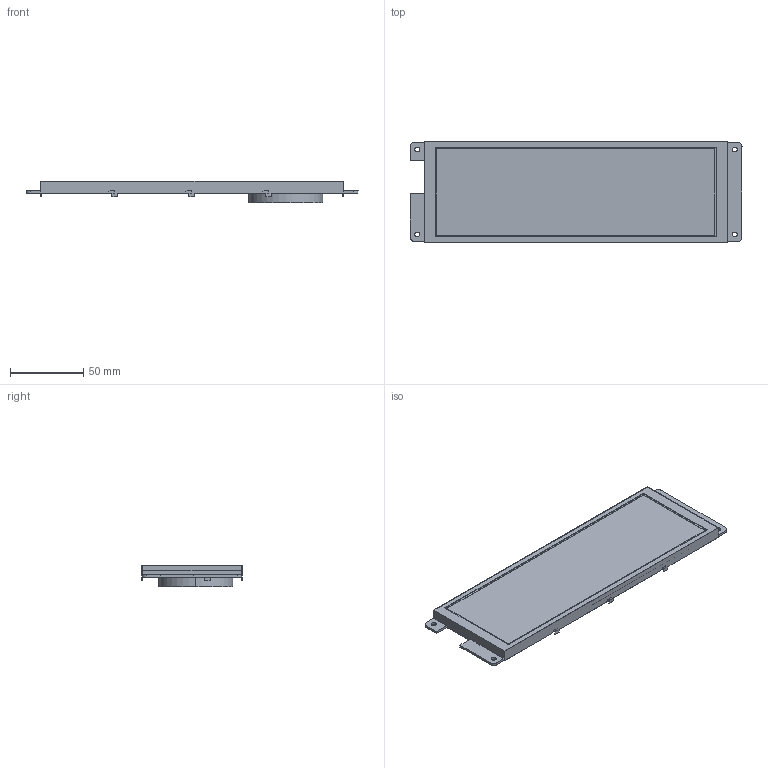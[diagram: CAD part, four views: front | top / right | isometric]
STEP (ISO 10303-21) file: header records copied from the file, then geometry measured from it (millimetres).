
FILE_DESCRIPTION((''),'2;1');
FILE_NAME('DMG12400T078-03WTR','2022-10-10T',('Administrator'),(''),'PRO/ENGINEER BY PARAMETRIC TECHNOLOGY CORPORATION, 2011310','PRO/ENGINEER BY PARAMETRIC TECHNOLOGY CORPORATION, 2011310','');
FILE_SCHEMA(('CONFIG_CONTROL_DESIGN','SHAPE_APPEARANCE_LAYERS_GROUPS'));
Products named in the file (1): DMG12400T078-03WTR
Bounding box: 226.94 x 68.9 x 14.78 mm (x, y, z)
Volume: 81599.4 mm3; surface area: 71433.7 mm2
Topology: 1 solids, 1 shells, 144 faces, 14418 edges, 14084 vertices
Faces by surface type: plane 128, cylinder 16
Entity records: 163106 total; most frequent: DIRECTION 20300, PRESENTATION_STYLE_ASSIGNMENT 18526, STYLED_ITEM 18526, CURVE_STYLE 16202, CARTESIAN_POINT 14838, TRIMMED_CURVE 14002, COMPOSITE_CURVE_SEGMENT 12698, VECTOR 8826
